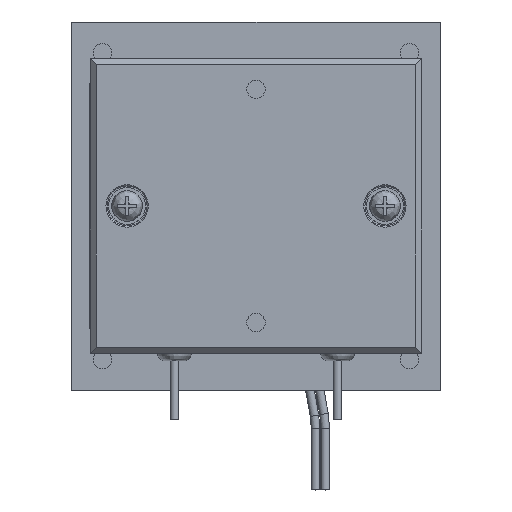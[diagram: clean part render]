
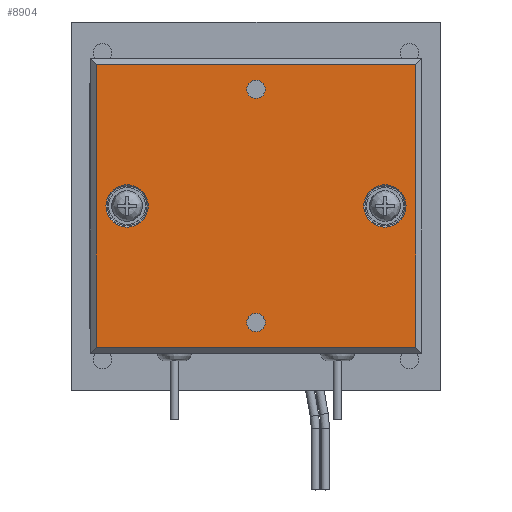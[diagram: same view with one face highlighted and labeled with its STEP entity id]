
A CAD part, top view. The second image highlights one B-rep face of the part: STEP entity #8904.
In plain terms, the highlighted planar face has unit normal (0, 0, 1).
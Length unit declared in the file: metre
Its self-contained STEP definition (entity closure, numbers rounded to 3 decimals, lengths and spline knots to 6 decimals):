
#8904=ADVANCED_FACE('10:84',(#18054,#18055,#18056,#18057,#18058),#18059,.T.);
#18054=FACE_BOUND('',#28087,.T.);
#18055=FACE_OUTER_BOUND('',#28088,.T.);
#18056=FACE_BOUND('',#28089,.T.);
#18057=FACE_BOUND('',#28090,.T.);
#18058=FACE_BOUND('',#28091,.T.);
#18059=PLANE('',#28092);
#28087=EDGE_LOOP('',(#53890));
#28088=EDGE_LOOP('',(#53891,#53892,#53893,#53894));
#28089=EDGE_LOOP('',(#53895));
#28090=EDGE_LOOP('',(#53896));
#28091=EDGE_LOOP('',(#53897));
#28092=AXIS2_PLACEMENT_3D('',#53898,#53899,#53900);
#53890=ORIENTED_EDGE('',*,*,#64167,.F.);
#53891=ORIENTED_EDGE('',*,*,#64168,.F.);
#53892=ORIENTED_EDGE('',*,*,#64169,.F.);
#53893=ORIENTED_EDGE('',*,*,#64170,.F.);
#53894=ORIENTED_EDGE('',*,*,#64171,.F.);
#53895=ORIENTED_EDGE('',*,*,#64172,.F.);
#53896=ORIENTED_EDGE('',*,*,#64173,.F.);
#53897=ORIENTED_EDGE('',*,*,#64174,.F.);
#53898=CARTESIAN_POINT('',(0.00616,0.01082,-0.05803));
#53899=DIRECTION('',(0.,0.,1.0));
#53900=DIRECTION('',(0.,1.0,0.));
#64167=EDGE_CURVE('6:17964',#79075,#79075,#79076,.T.);
#64168=EDGE_CURVE('6:11226',#79077,#79078,#79079,.T.);
#64169=EDGE_CURVE('6:2546',#79080,#79077,#79081,.T.);
#64170=EDGE_CURVE('6:7074',#79082,#79080,#79083,.T.);
#64171=EDGE_CURVE('6:9622',#79078,#79082,#79084,.T.);
#64172=EDGE_CURVE('6:17474',#79085,#79085,#79086,.T.);
#64173=EDGE_CURVE('10:517',#79087,#79087,#79088,.T.);
#64174=EDGE_CURVE('10:984',#79089,#79089,#79090,.T.);
#79075=VERTEX_POINT('',#101679);
#79076=CIRCLE('',#101680,0.00345);
#79077=VERTEX_POINT('',#101681);
#79078=VERTEX_POINT('',#101682);
#79079=LINE('',#101683,#101684);
#79080=VERTEX_POINT('',#101685);
#79081=LINE('',#101686,#101687);
#79082=VERTEX_POINT('',#101688);
#79083=LINE('',#101689,#101690);
#79084=LINE('',#101691,#101692);
#79085=VERTEX_POINT('',#101693);
#79086=CIRCLE('',#101694,0.00345);
#79087=VERTEX_POINT('',#101695);
#79088=CIRCLE('',#101696,0.0015);
#79089=VERTEX_POINT('',#101697);
#79090=CIRCLE('',#101698,0.0015);
#101679=CARTESIAN_POINT('',(0.01216,0.02637,-0.05803));
#101680=AXIS2_PLACEMENT_3D('',#109146,#109147,#109148);
#101681=CARTESIAN_POINT('',(0.00716,0.05282,-0.05803));
#101682=CARTESIAN_POINT('',(0.05916,0.05282,-0.05803));
#101683=CARTESIAN_POINT('',(0.01966,0.05282,-0.05803));
#101684=VECTOR('',#109149,1.0);
#101685=CARTESIAN_POINT('',(0.00716,0.00682,-0.05803));
#101686=CARTESIAN_POINT('',(0.00716,0.02032,-0.05803));
#101687=VECTOR('',#109150,1.0);
#101688=CARTESIAN_POINT('',(0.05916,0.00682,-0.05803));
#101689=CARTESIAN_POINT('',(0.01966,0.00682,-0.05803));
#101690=VECTOR('',#109151,1.0);
#101691=CARTESIAN_POINT('',(0.05916,0.02032,-0.05803));
#101692=VECTOR('',#109152,1.0);
#101693=CARTESIAN_POINT('',(0.05416,0.02637,-0.05803));
#101694=AXIS2_PLACEMENT_3D('',#109153,#109154,#109155);
#101695=CARTESIAN_POINT('',(0.03316,0.00932,-0.05803));
#101696=AXIS2_PLACEMENT_3D('',#109156,#109157,#109158);
#101697=CARTESIAN_POINT('',(0.03316,0.04732,-0.05803));
#101698=AXIS2_PLACEMENT_3D('',#109159,#109160,#109161);
#109146=CARTESIAN_POINT('',(0.01216,0.02982,-0.05803));
#109147=DIRECTION('',(0.,0.,1.0));
#109148=DIRECTION('',(0.,1.0,0.));
#109149=DIRECTION('',(1.0,0.,0.));
#109150=DIRECTION('',(0.,1.0,0.));
#109151=DIRECTION('',(-1.0,0.,0.));
#109152=DIRECTION('',(0.,-1.0,0.));
#109153=CARTESIAN_POINT('',(0.05416,0.02982,-0.05803));
#109154=DIRECTION('',(0.,0.,1.0));
#109155=DIRECTION('',(0.,1.0,0.));
#109156=CARTESIAN_POINT('',(0.03316,0.01082,-0.05803));
#109157=DIRECTION('',(0.,0.,1.0));
#109158=DIRECTION('',(0.,-1.0,0.));
#109159=CARTESIAN_POINT('',(0.03316,0.04882,-0.05803));
#109160=DIRECTION('',(0.,0.,1.0));
#109161=DIRECTION('',(0.,-1.0,0.));
